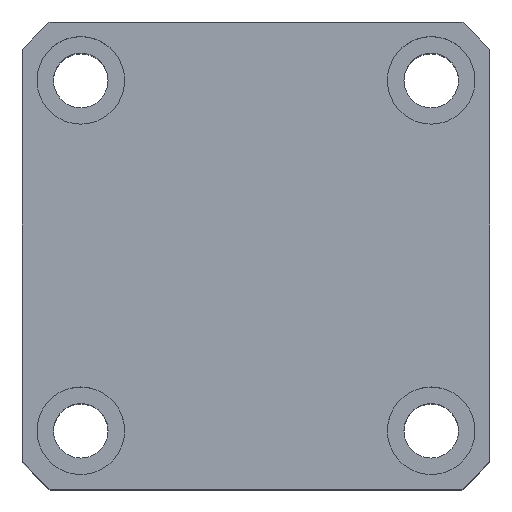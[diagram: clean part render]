
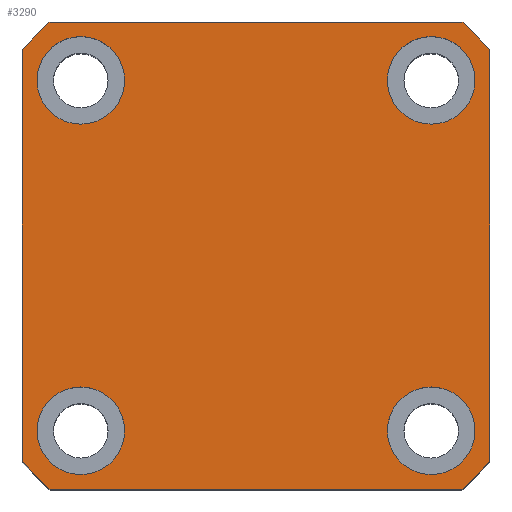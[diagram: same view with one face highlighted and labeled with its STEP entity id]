
A CAD part, top view. The second image highlights one B-rep face of the part: STEP entity #3290.
In plain terms, the highlighted planar face has unit normal (0, 0, 1) as drawn and (1, 0, 0) by its records, which use the part's own axes.
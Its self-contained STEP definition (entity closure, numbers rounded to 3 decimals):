
#17 = CARTESIAN_POINT ( 'NONE',  ( 50., 0., 0. ) ) ;
#43 = DIRECTION ( 'NONE',  ( 1., 0., 0. ) ) ;
#69 = EDGE_CURVE ( 'NONE', #2219, #158, #2319, .T. ) ;
#97 = EDGE_CURVE ( 'NONE', #3852, #1348, #2126, .T. ) ;
#158 = VERTEX_POINT ( 'NONE', #6733 ) ;
#222 = EDGE_LOOP ( 'NONE', ( #1921, #4849 ) ) ;
#229 = CARTESIAN_POINT ( 'NONE',  ( 50., -21.166, 24. ) ) ;
#235 = AXIS2_PLACEMENT_3D ( 'NONE', #616, #43, #6732 ) ;
#250 = ORIENTED_EDGE ( 'NONE', *, *, #7196, .T. ) ;
#258 = AXIS2_PLACEMENT_3D ( 'NONE', #5122, #1401, #5761 ) ;
#262 = CARTESIAN_POINT ( 'NONE',  ( 50., 18., -13.5 ) ) ;
#314 = DIRECTION ( 'NONE',  ( 0., 0., 1. ) ) ;
#470 = EDGE_CURVE ( 'NONE', #4271, #4598, #7972, .T. ) ;
#528 = ORIENTED_EDGE ( 'NONE', *, *, #1087, .T. ) ;
#565 = CIRCLE ( 'NONE', #235, 4.5 ) ;
#589 = CARTESIAN_POINT ( 'NONE',  ( 50., -18., 13.5 ) ) ;
#616 = CARTESIAN_POINT ( 'NONE',  ( 50., -18., 18. ) ) ;
#617 = CARTESIAN_POINT ( 'NONE',  ( 50., 24., -24. ) ) ;
#640 = DIRECTION ( 'NONE',  ( 0., 0., -1. ) ) ;
#777 = EDGE_CURVE ( 'NONE', #6328, #1529, #565, .T. ) ;
#999 = CARTESIAN_POINT ( 'NONE',  ( 50., -18., 22.5 ) ) ;
#1036 = ORIENTED_EDGE ( 'NONE', *, *, #7591, .F. ) ;
#1069 = CARTESIAN_POINT ( 'NONE',  ( 50., 0., 0. ) ) ;
#1087 = EDGE_CURVE ( 'NONE', #4631, #2621, #4234, .T. ) ;
#1220 = CARTESIAN_POINT ( 'NONE',  ( 50., 0., 0. ) ) ;
#1348 = VERTEX_POINT ( 'NONE', #7000 ) ;
#1351 = CIRCLE ( 'NONE', #4833, 4.5 ) ;
#1401 = DIRECTION ( 'NONE',  ( 1., 0., 0. ) ) ;
#1509 = ORIENTED_EDGE ( 'NONE', *, *, #470, .T. ) ;
#1529 = VERTEX_POINT ( 'NONE', #589 ) ;
#1565 = CIRCLE ( 'NONE', #5029, 4.5 ) ;
#1609 = FACE_BOUND ( 'NONE', #3400, .T. ) ;
#1664 = DIRECTION ( 'NONE',  ( 1., 0., 0. ) ) ;
#1683 = DIRECTION ( 'NONE',  ( 0., 0., -1. ) ) ;
#1718 = CIRCLE ( 'NONE', #2576, 4.5 ) ;
#1761 = CARTESIAN_POINT ( 'NONE',  ( 50., 18., -18. ) ) ;
#1762 = CARTESIAN_POINT ( 'NONE',  ( 50., -24., 24. ) ) ;
#1784 = DIRECTION ( 'NONE',  ( 0., 0., -1. ) ) ;
#1921 = ORIENTED_EDGE ( 'NONE', *, *, #4920, .F. ) ;
#2014 = ORIENTED_EDGE ( 'NONE', *, *, #4858, .T. ) ;
#2126 = CIRCLE ( 'NONE', #7233, 4.5 ) ;
#2147 = CARTESIAN_POINT ( 'NONE',  ( 50., -24., 21.166 ) ) ;
#2219 = VERTEX_POINT ( 'NONE', #5691 ) ;
#2231 = CARTESIAN_POINT ( 'NONE',  ( 50., 18., 18. ) ) ;
#2281 = VERTEX_POINT ( 'NONE', #262 ) ;
#2319 = LINE ( 'NONE', #4581, #3746 ) ;
#2351 = EDGE_CURVE ( 'NONE', #4333, #7476, #6593, .T. ) ;
#2367 = CARTESIAN_POINT ( 'NONE',  ( 50., -18., -18. ) ) ;
#2382 = DIRECTION ( 'NONE',  ( 0., 0., -1. ) ) ;
#2452 = ORIENTED_EDGE ( 'NONE', *, *, #7422, .T. ) ;
#2489 = CIRCLE ( 'NONE', #3090, 32. ) ;
#2557 = ORIENTED_EDGE ( 'NONE', *, *, #5534, .T. ) ;
#2576 = AXIS2_PLACEMENT_3D ( 'NONE', #2367, #6749, #2990 ) ;
#2617 = EDGE_LOOP ( 'NONE', ( #3529, #6442 ) ) ;
#2621 = VERTEX_POINT ( 'NONE', #2995 ) ;
#2730 = DIRECTION ( 'NONE',  ( 1., 0., 0. ) ) ;
#2815 = DIRECTION ( 'NONE',  ( 1., 0., 0. ) ) ;
#2847 = DIRECTION ( 'NONE',  ( 0., 0., -1. ) ) ;
#2889 = CARTESIAN_POINT ( 'NONE',  ( 50., 0., 0. ) ) ;
#2913 = CIRCLE ( 'NONE', #4351, 4.5 ) ;
#2984 = AXIS2_PLACEMENT_3D ( 'NONE', #2889, #7269, #3480 ) ;
#2990 = DIRECTION ( 'NONE',  ( 0., 0., -1. ) ) ;
#2995 = CARTESIAN_POINT ( 'NONE',  ( 50., -24., -21.166 ) ) ;
#3027 = AXIS2_PLACEMENT_3D ( 'NONE', #1220, #3110, #4942 ) ;
#3037 = CARTESIAN_POINT ( 'NONE',  ( 50., 21.166, 24. ) ) ;
#3090 = AXIS2_PLACEMENT_3D ( 'NONE', #1069, #5417, #1683 ) ;
#3110 = DIRECTION ( 'NONE',  ( 1., 0., 0. ) ) ;
#3233 = FACE_BOUND ( 'NONE', #222, .T. ) ;
#3271 = DIRECTION ( 'NONE',  ( 0., 0., -1. ) ) ;
#3290 = ADVANCED_FACE ( 'NONE', ( #3233, #1609, #6577, #8036, #6385 ), #5141, .T. ) ;
#3316 = CARTESIAN_POINT ( 'NONE',  ( 50., 18., 18. ) ) ;
#3400 = EDGE_LOOP ( 'NONE', ( #1036, #4880 ) ) ;
#3480 = DIRECTION ( 'NONE',  ( 0., 0., -1. ) ) ;
#3516 = ORIENTED_EDGE ( 'NONE', *, *, #2351, .F. ) ;
#3529 = ORIENTED_EDGE ( 'NONE', *, *, #7641, .F. ) ;
#3589 = CARTESIAN_POINT ( 'NONE',  ( 50., 24., 24. ) ) ;
#3729 = CIRCLE ( 'NONE', #5936, 32. ) ;
#3746 = VECTOR ( 'NONE', #314, 1000. ) ;
#3852 = VERTEX_POINT ( 'NONE', #7333 ) ;
#3933 = EDGE_LOOP ( 'NONE', ( #1509, #2557, #6483, #7288, #250, #2014, #528, #2452 ) ) ;
#3966 = ORIENTED_EDGE ( 'NONE', *, *, #5920, .F. ) ;
#4063 = AXIS2_PLACEMENT_3D ( 'NONE', #3316, #2730, #3271 ) ;
#4234 = LINE ( 'NONE', #1762, #7582 ) ;
#4271 = VERTEX_POINT ( 'NONE', #7717 ) ;
#4333 = VERTEX_POINT ( 'NONE', #5886 ) ;
#4351 = AXIS2_PLACEMENT_3D ( 'NONE', #2231, #6588, #2847 ) ;
#4356 = DIRECTION ( 'NONE',  ( 1., 0., 0. ) ) ;
#4411 = AXIS2_PLACEMENT_3D ( 'NONE', #1761, #6128, #2382 ) ;
#4461 = VECTOR ( 'NONE', #6586, 1000. ) ;
#4581 = CARTESIAN_POINT ( 'NONE',  ( 50., 24., 24. ) ) ;
#4598 = VERTEX_POINT ( 'NONE', #5254 ) ;
#4631 = VERTEX_POINT ( 'NONE', #2147 ) ;
#4833 = AXIS2_PLACEMENT_3D ( 'NONE', #5389, #1664, #6029 ) ;
#4849 = ORIENTED_EDGE ( 'NONE', *, *, #97, .F. ) ;
#4858 = EDGE_CURVE ( 'NONE', #7800, #4631, #5226, .T. ) ;
#4880 = ORIENTED_EDGE ( 'NONE', *, *, #777, .F. ) ;
#4920 = EDGE_CURVE ( 'NONE', #1348, #3852, #1718, .T. ) ;
#4942 = DIRECTION ( 'NONE',  ( 0., 0., -1. ) ) ;
#4945 = VECTOR ( 'NONE', #7994, 1000. ) ;
#5029 = AXIS2_PLACEMENT_3D ( 'NONE', #6546, #2815, #7186 ) ;
#5032 = EDGE_CURVE ( 'NONE', #158, #6703, #3729, .T. ) ;
#5122 = CARTESIAN_POINT ( 'NONE',  ( 50., 0., 0. ) ) ;
#5141 = PLANE ( 'NONE',  #3027 ) ;
#5226 = CIRCLE ( 'NONE', #2984, 32. ) ;
#5254 = CARTESIAN_POINT ( 'NONE',  ( 50., 21.166, -24. ) ) ;
#5389 = CARTESIAN_POINT ( 'NONE',  ( 50., -18., 18. ) ) ;
#5417 = DIRECTION ( 'NONE',  ( 1., 0., 0. ) ) ;
#5534 = EDGE_CURVE ( 'NONE', #4598, #2219, #2489, .T. ) ;
#5691 = CARTESIAN_POINT ( 'NONE',  ( 50., 24., -21.166 ) ) ;
#5761 = DIRECTION ( 'NONE',  ( 0., 0., -1. ) ) ;
#5852 = CARTESIAN_POINT ( 'NONE',  ( 50., 18., 13.5 ) ) ;
#5886 = CARTESIAN_POINT ( 'NONE',  ( 50., 18., 22.5 ) ) ;
#5920 = EDGE_CURVE ( 'NONE', #7476, #4333, #2913, .T. ) ;
#5936 = AXIS2_PLACEMENT_3D ( 'NONE', #17, #4356, #640 ) ;
#6029 = DIRECTION ( 'NONE',  ( 0., 0., -1. ) ) ;
#6128 = DIRECTION ( 'NONE',  ( 1., 0., 0. ) ) ;
#6271 = EDGE_CURVE ( 'NONE', #2281, #7449, #1565, .T. ) ;
#6328 = VERTEX_POINT ( 'NONE', #999 ) ;
#6385 = FACE_OUTER_BOUND ( 'NONE', #3933, .T. ) ;
#6442 = ORIENTED_EDGE ( 'NONE', *, *, #6271, .F. ) ;
#6483 = ORIENTED_EDGE ( 'NONE', *, *, #69, .T. ) ;
#6546 = CARTESIAN_POINT ( 'NONE',  ( 50., 18., -18. ) ) ;
#6577 = FACE_BOUND ( 'NONE', #2617, .T. ) ;
#6586 = DIRECTION ( 'NONE',  ( 0., 1., 0. ) ) ;
#6588 = DIRECTION ( 'NONE',  ( 1., 0., 0. ) ) ;
#6593 = CIRCLE ( 'NONE', #4063, 4.5 ) ;
#6635 = DIRECTION ( 'NONE',  ( 0., 0., -1. ) ) ;
#6690 = CARTESIAN_POINT ( 'NONE',  ( 50., -18., -18. ) ) ;
#6703 = VERTEX_POINT ( 'NONE', #3037 ) ;
#6722 = CIRCLE ( 'NONE', #258, 32. ) ;
#6732 = DIRECTION ( 'NONE',  ( 0., 0., -1. ) ) ;
#6733 = CARTESIAN_POINT ( 'NONE',  ( 50., 24., 21.166 ) ) ;
#6749 = DIRECTION ( 'NONE',  ( 1., 0., 0. ) ) ;
#6822 = LINE ( 'NONE', #3589, #4945 ) ;
#7000 = CARTESIAN_POINT ( 'NONE',  ( 50., -18., -22.5 ) ) ;
#7186 = DIRECTION ( 'NONE',  ( 0., 0., -1. ) ) ;
#7196 = EDGE_CURVE ( 'NONE', #6703, #7800, #6822, .T. ) ;
#7233 = AXIS2_PLACEMENT_3D ( 'NONE', #6690, #7265, #6635 ) ;
#7265 = DIRECTION ( 'NONE',  ( 1., 0., 0. ) ) ;
#7269 = DIRECTION ( 'NONE',  ( 1., 0., 0. ) ) ;
#7288 = ORIENTED_EDGE ( 'NONE', *, *, #5032, .T. ) ;
#7333 = CARTESIAN_POINT ( 'NONE',  ( 50., -18., -13.5 ) ) ;
#7422 = EDGE_CURVE ( 'NONE', #2621, #4271, #6722, .T. ) ;
#7449 = VERTEX_POINT ( 'NONE', #7678 ) ;
#7476 = VERTEX_POINT ( 'NONE', #5852 ) ;
#7582 = VECTOR ( 'NONE', #1784, 1000. ) ;
#7591 = EDGE_CURVE ( 'NONE', #1529, #6328, #1351, .T. ) ;
#7641 = EDGE_CURVE ( 'NONE', #7449, #2281, #7791, .T. ) ;
#7678 = CARTESIAN_POINT ( 'NONE',  ( 50., 18., -22.5 ) ) ;
#7717 = CARTESIAN_POINT ( 'NONE',  ( 50., -21.166, -24. ) ) ;
#7742 = EDGE_LOOP ( 'NONE', ( #3966, #3516 ) ) ;
#7791 = CIRCLE ( 'NONE', #4411, 4.5 ) ;
#7800 = VERTEX_POINT ( 'NONE', #229 ) ;
#7972 = LINE ( 'NONE', #617, #4461 ) ;
#7994 = DIRECTION ( 'NONE',  ( 0., -1., 0. ) ) ;
#8036 = FACE_BOUND ( 'NONE', #7742, .T. ) ;
